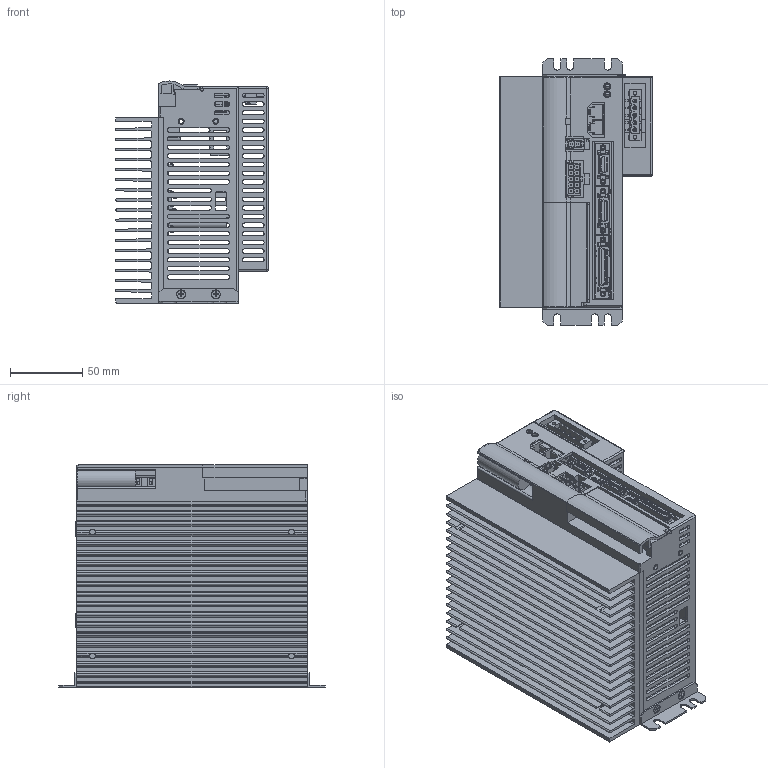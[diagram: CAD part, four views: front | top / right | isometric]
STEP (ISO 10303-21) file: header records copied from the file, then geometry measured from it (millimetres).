
FILE_DESCRIPTION( (''), '2;1');
FILE_NAME ('CA25-M40M80-_DC_3D.stp','2016-05-25T11:26:57',(''),(''),'spGate 11.3.10','spGate','');
FILE_SCHEMA (('AUTOMOTIVE_DESIGN'));
Length unit declared in the file: millimetre
Products named in the file (223): Assembly; CA25-M40M80-_DC_3D-prt0; CA25-M40M80-_DC_3D-prt1; CA25-M40M80-_DC_3D-prt2; CA25-M40M80-_DC_3D-prt3; CA25-M40M80-_DC_3D-prt4; CA25-M40M80-_DC_3D-prt5; CA25-M40M80-_DC_3D-prt6; CA25-M40M80-_DC_3D-prt7; CA25-M40M80-_DC_3D-prt8; CA25-M40M80-_DC_3D-prt9; CA25-M40M80-_DC_3D-prt10; CA25-M40M80-_DC_3D-prt11; CA25-M40M80-_DC_3D-prt12; CA25-M40M80-_DC_3D-prt13; CA25-M40M80-_DC_3D-prt14; CA25-M40M80-_DC_3D-prt15; CA25-M40M80-_DC_3D-prt16; CA25-M40M80-_DC_3D-prt17; CA25-M40M80-_DC_3D-prt18; CA25-M40M80-_DC_3D-prt19; CA25-M40M80-_DC_3D-prt20; CA25-M40M80-_DC_3D-prt21; CA25-M40M80-_DC_3D-prt22; CA25-M40M80-_DC_3D-prt23; CA25-M40M80-_DC_3D-prt24; CA25-M40M80-_DC_3D-prt25; CA25-M40M80-_DC_3D-prt26; CA25-M40M80-_DC_3D-prt27; CA25-M40M80-_DC_3D-prt28; CA25-M40M80-_DC_3D-prt29; CA25-M40M80-_DC_3D-prt30; CA25-M40M80-_DC_3D-prt31; CA25-M40M80-_DC_3D-prt32; CA25-M40M80-_DC_3D-prt33; CA25-M40M80-_DC_3D-prt34; CA25-M40M80-_DC_3D-prt35; CA25-M40M80-_DC_3D-prt36; CA25-M40M80-_DC_3D-prt37; CA25-M40M80-_DC_3D-prt38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
Assembly tree (222 placements, depth 2):
  Assembly
    CA25-M40M80-_DC_3D-prt0
    CA25-M40M80-_DC_3D-prt1
    CA25-M40M80-_DC_3D-prt2
    CA25-M40M80-_DC_3D-prt3
    CA25-M40M80-_DC_3D-prt4
    CA25-M40M80-_DC_3D-prt5
    CA25-M40M80-_DC_3D-prt6
    CA25-M40M80-_DC_3D-prt7
    CA25-M40M80-_DC_3D-prt8
    CA25-M40M80-_DC_3D-prt9
    CA25-M40M80-_DC_3D-prt10
    CA25-M40M80-_DC_3D-prt11
    CA25-M40M80-_DC_3D-prt12
    CA25-M40M80-_DC_3D-prt13
    CA25-M40M80-_DC_3D-prt14
    CA25-M40M80-_DC_3D-prt15
    CA25-M40M80-_DC_3D-prt16
    CA25-M40M80-_DC_3D-prt17
    CA25-M40M80-_DC_3D-prt18
    CA25-M40M80-_DC_3D-prt19
    CA25-M40M80-_DC_3D-prt20
    CA25-M40M80-_DC_3D-prt21
    CA25-M40M80-_DC_3D-prt22
    CA25-M40M80-_DC_3D-prt23
    CA25-M40M80-_DC_3D-prt24
    CA25-M40M80-_DC_3D-prt25
    CA25-M40M80-_DC_3D-prt26
    CA25-M40M80-_DC_3D-prt27
    CA25-M40M80-_DC_3D-prt28
    CA25-M40M80-_DC_3D-prt29
    CA25-M40M80-_DC_3D-prt30
    CA25-M40M80-_DC_3D-prt31
    CA25-M40M80-_DC_3D-prt32
    CA25-M40M80-_DC_3D-prt33
    CA25-M40M80-_DC_3D-prt34
    CA25-M40M80-_DC_3D-prt35
    CA25-M40M80-_DC_3D-prt36
    CA25-M40M80-_DC_3D-prt37
    CA25-M40M80-_DC_3D-prt38
    CA25-M40M80-_DC_3D-prt39
    CA25-M40M80-_DC_3D-prt40
    CA25-M40M80-_DC_3D-prt41
    CA25-M40M80-_DC_3D-prt42
    CA25-M40M80-_DC_3D-prt43
    CA25-M40M80-_DC_3D-prt44
    CA25-M40M80-_DC_3D-prt45
    CA25-M40M80-_DC_3D-prt46
    CA25-M40M80-_DC_3D-prt47
    CA25-M40M80-_DC_3D-prt48
    CA25-M40M80-_DC_3D-prt49
    CA25-M40M80-_DC_3D-prt50
    CA25-M40M80-_DC_3D-prt51
    CA25-M40M80-_DC_3D-prt52
    CA25-M40M80-_DC_3D-prt53
    CA25-M40M80-_DC_3D-prt54
    CA25-M40M80-_DC_3D-prt55
    CA25-M40M80-_DC_3D-prt56
    CA25-M40M80-_DC_3D-prt57
    CA25-M40M80-_DC_3D-prt58
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Bounding box: 106 x 185 x 153.99 mm (x, y, z)
Volume: 498496.7 mm3; surface area: 442145.3 mm2
Topology: 47 solids, 50 shells, 4708 faces, 13221 edges, 8973 vertices
Faces by surface type: plane 3610, cylinder 972, bspline 105, sphere 21
Entity records: 264994 total; most frequent: CARTESIAN_POINT 34799, ORIENTED_EDGE 25888, DIRECTION 24570, COLOUR_RGB 17949, PRESENTATION_STYLE_ASSIGNMENT 17949, STYLED_ITEM 17949, DRAUGHTING_PRE_DEFINED_CURVE_FONT 13191, CURVE_STYLE 13191
